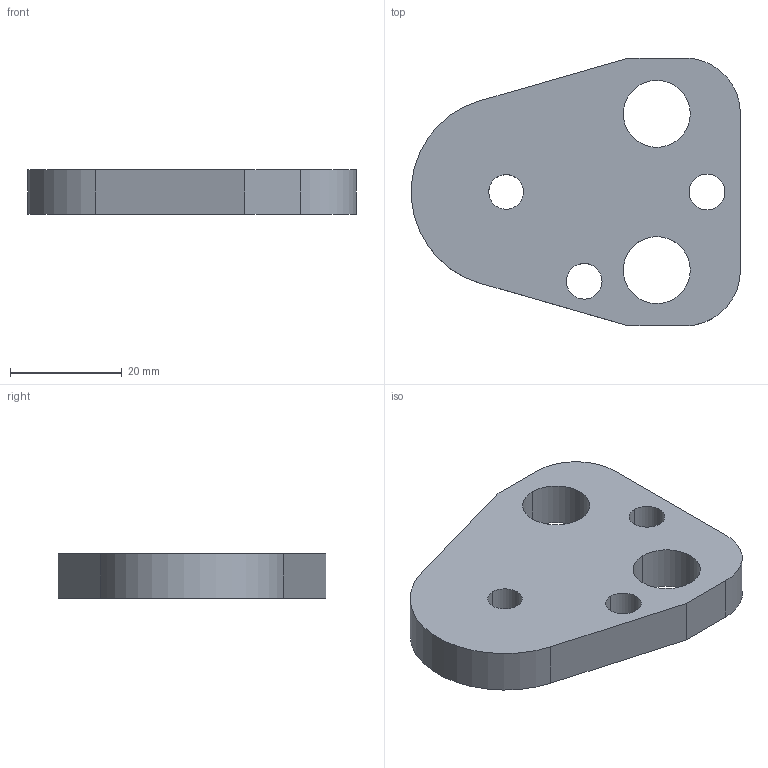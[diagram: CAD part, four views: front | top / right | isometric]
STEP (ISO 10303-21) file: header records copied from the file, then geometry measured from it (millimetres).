
FILE_DESCRIPTION(/* description */ (''),/* implementation_level */ '2;1');
FILE_NAME(/* name */ '3d_bpc20-8_03441_r00.stp',/* time_stamp */ '2011-01-10T14:17:10+09:00',/* author */ ('MISUMI'),/* organization */ (''),/* preprocessor_version */ 'ST-DEVELOPER v11',/* originating_system */ 'UGS - NX 5.0',/* authorisation */ '');
FILE_SCHEMA (('CONFIG_CONTROL_DESIGN'));
Length unit declared in the file: millimetre
Products named in the file (1): 3d_bpc20-8_03441_r00
Bounding box: 58.94 x 48 x 8 mm (x, y, z)
Volume: 15756.7 mm3; surface area: 6450.7 mm2
Topology: 1 solids, 1 shells, 20 faces, 54 edges, 36 vertices
Faces by surface type: cylinder 13, plane 7
Entity records: 750 total; most frequent: DIRECTION 122, CARTESIAN_POINT 111, ORIENTED_EDGE 108, EDGE_CURVE 54, AXIS2_PLACEMENT_3D 47, VERTEX_POINT 36, EDGE_LOOP 30, LINE 28
